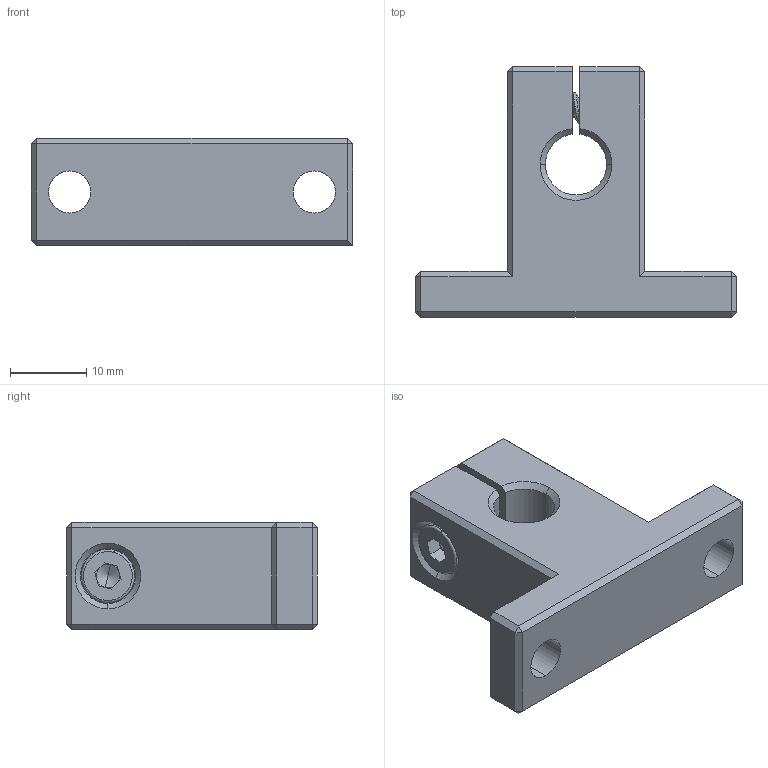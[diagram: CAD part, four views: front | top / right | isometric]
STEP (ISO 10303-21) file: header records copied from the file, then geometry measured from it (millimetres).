
FILE_DESCRIPTION (( 'STEP AP214' ), '1' );
FILE_NAME ('SK8.STEP', '2020-06-29T05:48:25', ( '' ), ( '' ), 'SwSTEP 2.0', 'SolidWorks 2018', '' );
FILE_SCHEMA (( 'AUTOMOTIVE_DESIGN' ));
Length unit declared in the file: millimetre
Products named in the file (3): SK8 Part2; SK8 Part1; SK8
Assembly tree (2 placements, depth 2):
  SK8
    SK8 Part1
    SK8 Part2
Bounding box: 42 x 32.8 x 14 mm (x, y, z)
Volume: 8959 mm3; surface area: 4513 mm2
Topology: 2 solids, 2 shells, 122 faces, 286 edges, 169 vertices
Faces by surface type: plane 62, cylinder 32, cone 18, bspline 6, torus 4
Entity records: 7364 total; most frequent: CARTESIAN_POINT 4560, ORIENTED_EDGE 568, DIRECTION 552, EDGE_CURVE 284, AXIS2_PLACEMENT_3D 191, VECTOR 170, LINE 170, VERTEX_POINT 169
